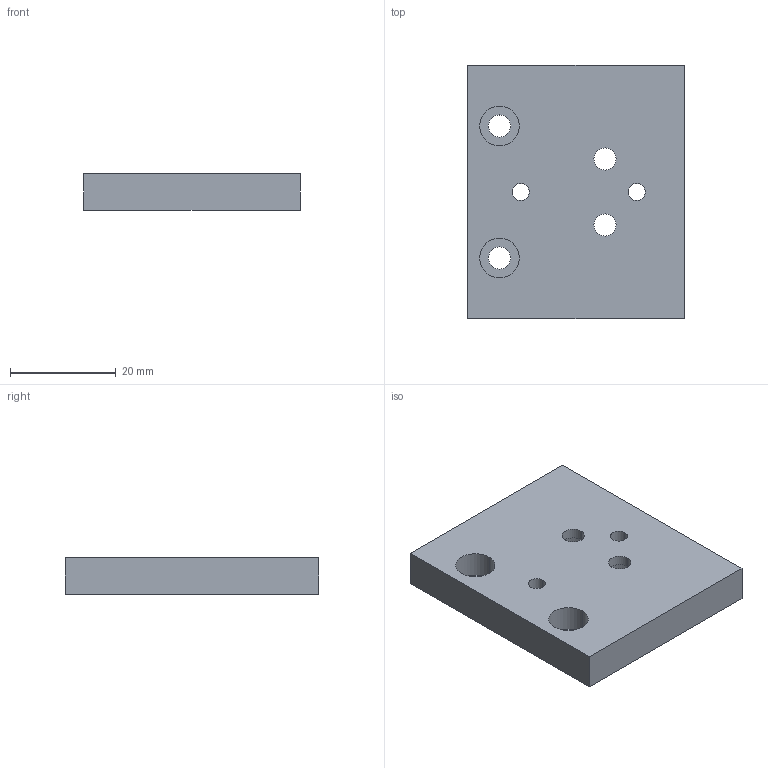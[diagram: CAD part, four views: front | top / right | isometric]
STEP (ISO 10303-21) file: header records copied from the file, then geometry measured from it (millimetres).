
FILE_DESCRIPTION (( 'STEP AP214' ), '1' );
FILE_NAME ('2CP173-50-20.STEP', '2009-07-14T08:47:07', ( 'ramunas' ), ( '' ), 'SwSTEP 2.0', 'SolidWorks 2003240', '' );
FILE_SCHEMA (( 'AUTOMOTIVE_DESIGN' ));
Length unit declared in the file: millimetre
Products named in the file (1): 2CP173-50-20
Bounding box: 41 x 48 x 7 mm (x, y, z)
Volume: 12666 mm3; surface area: 5757.5 mm2
Topology: 1 solids, 1 shells, 30 faces, 72 edges, 48 vertices
Faces by surface type: cylinder 20, plane 10
Entity records: 943 total; most frequent: DIRECTION 174, CARTESIAN_POINT 151, ORIENTED_EDGE 144, EDGE_CURVE 72, AXIS2_PLACEMENT_3D 71, VERTEX_POINT 48, EDGE_LOOP 46, CIRCLE 40
